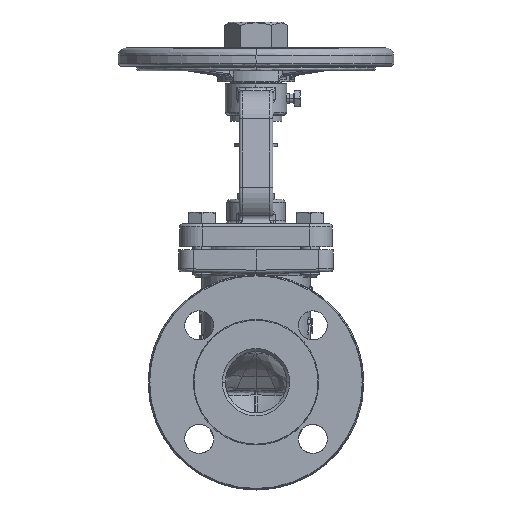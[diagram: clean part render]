
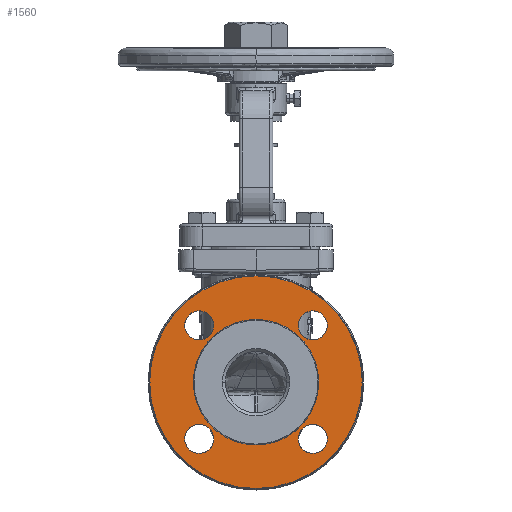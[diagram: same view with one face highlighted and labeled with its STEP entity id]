
A CAD part, left-side view. The second image highlights one B-rep face of the part: STEP entity #1560.
In plain terms, the highlighted planar face has unit normal (-1, 0, 0).
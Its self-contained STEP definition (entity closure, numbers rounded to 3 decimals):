
#1560=ADVANCED_FACE('',(#13168,#13169,#13170,#13171,#13172,#13173),#13167,.T.);
#13167=PLANE('',#34665);
#13168=FACE_OUTER_BOUND('',#34666,.T.);
#13169=FACE_BOUND('',#34667,.T.);
#13170=FACE_BOUND('',#34668,.T.);
#13171=FACE_BOUND('',#34669,.T.);
#13172=FACE_BOUND('',#34670,.T.);
#13173=FACE_BOUND('',#34671,.T.);
#34662=CARTESIAN_POINT('',(-88.,-79.534,-79.534));
#34663=DIRECTION('',(-1.,0.,0.));
#34664=DIRECTION('',(0.,0.,1.));
#34665=AXIS2_PLACEMENT_3D('',#34662,#34663,#34664);
#34666=EDGE_LOOP('',(#61875,#61876,#61877,#61878,#61879,#61880));
#34667=EDGE_LOOP('',(#61881,#61882));
#34668=EDGE_LOOP('',(#61883,#61884));
#34669=EDGE_LOOP('',(#61885,#61886));
#34670=EDGE_LOOP('',(#61887,#61888));
#34671=EDGE_LOOP('',(#61889,#61890));
#61875=ORIENTED_EDGE('',*,*,#68237,.T.);
#61876=ORIENTED_EDGE('',*,*,#68238,.F.);
#61877=ORIENTED_EDGE('',*,*,#68239,.T.);
#61878=ORIENTED_EDGE('',*,*,#68240,.T.);
#61879=ORIENTED_EDGE('',*,*,#68082,.F.);
#61880=ORIENTED_EDGE('',*,*,#68241,.T.);
#61881=ORIENTED_EDGE('',*,*,#68242,.T.);
#61882=ORIENTED_EDGE('',*,*,#68243,.T.);
#61883=ORIENTED_EDGE('',*,*,#68244,.F.);
#61884=ORIENTED_EDGE('',*,*,#68245,.F.);
#61885=ORIENTED_EDGE('',*,*,#68246,.T.);
#61886=ORIENTED_EDGE('',*,*,#68247,.T.);
#61887=ORIENTED_EDGE('',*,*,#68248,.T.);
#61888=ORIENTED_EDGE('',*,*,#68249,.T.);
#61889=ORIENTED_EDGE('',*,*,#68250,.T.);
#61890=ORIENTED_EDGE('',*,*,#68251,.T.);
#68082=EDGE_CURVE('',#86843,#86850,#86851,.T.);
#68237=EDGE_CURVE('',#87905,#87906,#87907,.T.);
#68238=EDGE_CURVE('',#87913,#87906,#87914,.T.);
#68239=EDGE_CURVE('',#87913,#87920,#87921,.T.);
#68240=EDGE_CURVE('',#87920,#86850,#87927,.T.);
#68241=EDGE_CURVE('',#86843,#87905,#87933,.T.);
#68242=EDGE_CURVE('',#87939,#87940,#87941,.T.);
#68243=EDGE_CURVE('',#87940,#87939,#87947,.T.);
#68244=EDGE_CURVE('',#87953,#87954,#87955,.T.);
#68245=EDGE_CURVE('',#87954,#87953,#87961,.T.);
#68246=EDGE_CURVE('',#87967,#87968,#87969,.T.);
#68247=EDGE_CURVE('',#87968,#87967,#87975,.T.);
#68248=EDGE_CURVE('',#87981,#87982,#87983,.T.);
#68249=EDGE_CURVE('',#87982,#87981,#87989,.T.);
#68250=EDGE_CURVE('',#87995,#87996,#87997,.T.);
#68251=EDGE_CURVE('',#87996,#87995,#88003,.T.);
#86843=VERTEX_POINT('',#113981);
#86850=VERTEX_POINT('',#113986);
#86851=CIRCLE('',#113990,69.534);
#87905=VERTEX_POINT('',#115190);
#87906=VERTEX_POINT('',#115191);
#87907=LINE('',#115192,#115193);
#87913=VERTEX_POINT('',#115195);
#87914=CIRCLE('',#115199,69.534);
#87920=VERTEX_POINT('',#115200);
#87921=LINE('',#115201,#115202);
#87927=LINE('',#115204,#115205);
#87933=LINE('',#115207,#115208);
#87939=VERTEX_POINT('',#115210);
#87940=VERTEX_POINT('',#115211);
#87941=CIRCLE('',#115215,9.5);
#87947=CIRCLE('',#115219,9.5);
#87953=VERTEX_POINT('',#115220);
#87954=VERTEX_POINT('',#115221);
#87955=CIRCLE('',#115225,41.036);
#87961=CIRCLE('',#115229,41.036);
#87967=VERTEX_POINT('',#115230);
#87968=VERTEX_POINT('',#115231);
#87969=CIRCLE('',#115235,9.5);
#87975=CIRCLE('',#115239,9.5);
#87981=VERTEX_POINT('',#115240);
#87982=VERTEX_POINT('',#115241);
#87983=CIRCLE('',#115245,9.5);
#87989=CIRCLE('',#115249,9.5);
#87995=VERTEX_POINT('',#115250);
#87996=VERTEX_POINT('',#115251);
#87997=CIRCLE('',#115255,9.5);
#88003=CIRCLE('',#115259,9.5);
#113981=CARTESIAN_POINT('',(-88.,-0.308,69.534));
#113986=CARTESIAN_POINT('',(-88.,-0.308,-69.534));
#113987=CARTESIAN_POINT('',(-88.,0.,0.));
#113988=DIRECTION('',(1.,0.,0.));
#113989=DIRECTION('',(0.,0.,-1.));
#113990=AXIS2_PLACEMENT_3D('',#113987,#113988,#113989);
#115190=CARTESIAN_POINT('',(-88.,0.,69.));
#115191=CARTESIAN_POINT('',(-88.,0.308,69.534));
#115192=CARTESIAN_POINT('',(-88.,0.,69.));
#115193=VECTOR('',#115194,0.616);
#115194=DIRECTION('',(0.,0.5,0.866));
#115195=CARTESIAN_POINT('',(-88.,0.308,-69.534));
#115196=CARTESIAN_POINT('',(-88.,0.,0.));
#115197=DIRECTION('',(1.,0.,0.));
#115198=DIRECTION('',(0.,0.,-1.));
#115199=AXIS2_PLACEMENT_3D('',#115196,#115197,#115198);
#115200=CARTESIAN_POINT('',(-88.,0.,-69.));
#115201=CARTESIAN_POINT('',(-88.,0.308,-69.534));
#115202=VECTOR('',#115203,0.616);
#115203=DIRECTION('',(0.,-0.5,0.866));
#115204=CARTESIAN_POINT('',(-88.,0.,-69.));
#115205=VECTOR('',#115206,0.616);
#115206=DIRECTION('',(0.,-0.5,-0.866));
#115207=CARTESIAN_POINT('',(-88.,-0.308,69.534));
#115208=VECTOR('',#115209,0.616);
#115209=DIRECTION('',(0.,0.5,-0.866));
#115210=CARTESIAN_POINT('',(-88.,37.123,46.623));
#115211=CARTESIAN_POINT('',(-88.,37.123,27.623));
#115212=CARTESIAN_POINT('',(-88.,37.123,37.123));
#115213=DIRECTION('',(1.,0.,0.));
#115214=DIRECTION('',(0.,0.,1.));
#115215=AXIS2_PLACEMENT_3D('',#115212,#115213,#115214);
#115216=CARTESIAN_POINT('',(-88.,37.123,37.123));
#115217=DIRECTION('',(1.,0.,0.));
#115218=DIRECTION('',(0.,0.,1.));
#115219=AXIS2_PLACEMENT_3D('',#115216,#115217,#115218);
#115220=CARTESIAN_POINT('',(-88.,0.,-41.036));
#115221=CARTESIAN_POINT('',(-88.,0.,41.036));
#115222=CARTESIAN_POINT('',(-88.,0.,0.));
#115223=DIRECTION('',(-1.,0.,0.));
#115224=DIRECTION('',(0.,0.,1.));
#115225=AXIS2_PLACEMENT_3D('',#115222,#115223,#115224);
#115226=CARTESIAN_POINT('',(-88.,0.,0.));
#115227=DIRECTION('',(-1.,0.,0.));
#115228=DIRECTION('',(0.,0.,1.));
#115229=AXIS2_PLACEMENT_3D('',#115226,#115227,#115228);
#115230=CARTESIAN_POINT('',(-88.,-37.123,-27.623));
#115231=CARTESIAN_POINT('',(-88.,-37.123,-46.623));
#115232=CARTESIAN_POINT('',(-88.,-37.123,-37.123));
#115233=DIRECTION('',(1.,0.,0.));
#115234=DIRECTION('',(0.,0.,1.));
#115235=AXIS2_PLACEMENT_3D('',#115232,#115233,#115234);
#115236=CARTESIAN_POINT('',(-88.,-37.123,-37.123));
#115237=DIRECTION('',(1.,0.,0.));
#115238=DIRECTION('',(0.,0.,1.));
#115239=AXIS2_PLACEMENT_3D('',#115236,#115237,#115238);
#115240=CARTESIAN_POINT('',(-88.,37.123,-27.623));
#115241=CARTESIAN_POINT('',(-88.,37.123,-46.623));
#115242=CARTESIAN_POINT('',(-88.,37.123,-37.123));
#115243=DIRECTION('',(1.,0.,0.));
#115244=DIRECTION('',(0.,0.,1.));
#115245=AXIS2_PLACEMENT_3D('',#115242,#115243,#115244);
#115246=CARTESIAN_POINT('',(-88.,37.123,-37.123));
#115247=DIRECTION('',(1.,0.,0.));
#115248=DIRECTION('',(0.,0.,1.));
#115249=AXIS2_PLACEMENT_3D('',#115246,#115247,#115248);
#115250=CARTESIAN_POINT('',(-88.,-37.123,46.623));
#115251=CARTESIAN_POINT('',(-88.,-37.123,27.623));
#115252=CARTESIAN_POINT('',(-88.,-37.123,37.123));
#115253=DIRECTION('',(1.,0.,0.));
#115254=DIRECTION('',(0.,0.,1.));
#115255=AXIS2_PLACEMENT_3D('',#115252,#115253,#115254);
#115256=CARTESIAN_POINT('',(-88.,-37.123,37.123));
#115257=DIRECTION('',(1.,0.,0.));
#115258=DIRECTION('',(0.,0.,1.));
#115259=AXIS2_PLACEMENT_3D('',#115256,#115257,#115258);
